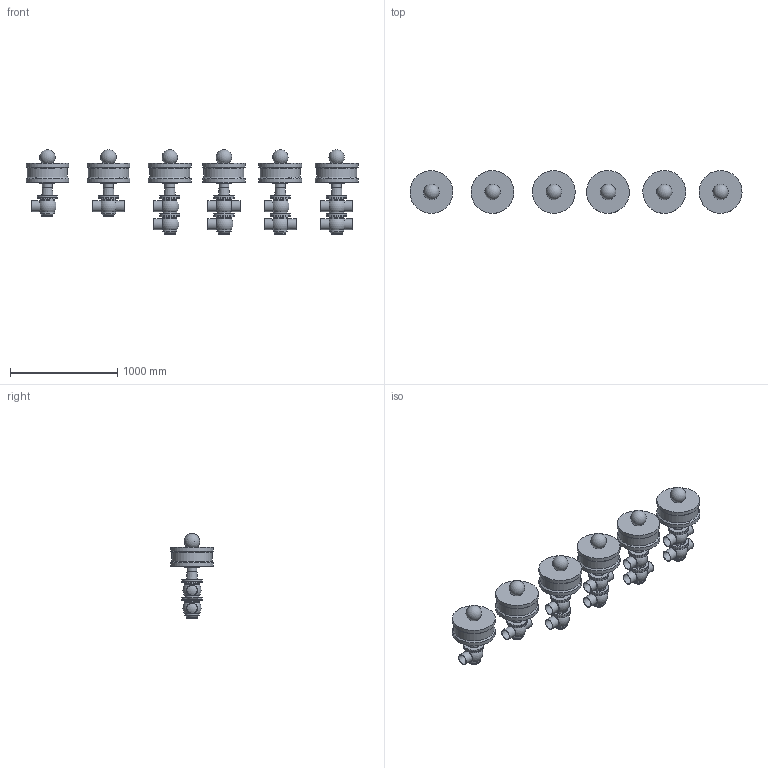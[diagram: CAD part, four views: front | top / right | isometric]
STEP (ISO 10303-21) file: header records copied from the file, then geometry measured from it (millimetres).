
FILE_DESCRIPTION(/* description */ (''),/* implementation_level */ '2;1');
FILE_NAME(/* name */ 'C:\Users\marz-m\Desktop\PDF\BBZQ 3D STEP\BBZQ-DN100-CIL.360.stp',/* time_stamp */ '2018-04-13T15:29:35+02:00',/* author */ ('marz-m'),/* organization */ (''),/* preprocessor_version */ 'ST-DEVELOPER v17',/* originating_system */ 'Autodesk Inventor 2018',/* authorisation */ '');
FILE_SCHEMA (('AUTOMOTIVE_DESIGN { 1 0 10303 214 3 1 1 }'));
Length unit declared in the file: millimetre
Products named in the file (8): BBZQ-DN100-CIL.360; assemblaggio dn100 per cil 207-360; CILINDRO 360; SAGOMA-GIOTTO-; COR-INF-L-BBZQ-DN100X3-SALD; CORPO-SUP-INF-BBZQ-L-DN1016X3-SALD; CORPO-SUP-BBZQ-T-DN1016X3-SALD; COR-INF-T-BBZQ-DN100X3-SALD
Assembly tree (28 placements, depth 2):
  BBZQ-DN100-CIL.360
    assemblaggio dn100 per cil 207-360  x6
    COR-INF-L-BBZQ-DN100X3-SALD  x3
    COR-INF-T-BBZQ-DN100X3-SALD  x3
    CORPO-SUP-INF-BBZQ-L-DN1016X3-SALD  x2
    CORPO-SUP-BBZQ-T-DN1016X3-SALD  x2
    CILINDRO 360  x6
    SAGOMA-GIOTTO-  x6
Bounding box: 3096.57 x 399.85 x 790.97 mm (x, y, z)
Volume: 172797148.7 mm3; surface area: 6427678.2 mm2
Topology: 28 solids, 28 shells, 368 faces, 964 edges, 716 vertices
Faces by surface type: cylinder 142, plane 115, torus 44, cone 36, sphere 31
Full cylindrical faces by diameter (mm): 25.4 x6, 68 x6, 69.8 x6, 70 x6, 77 x6, 92 x6, 95.6 x21, 101.6 x21, 133 x20, 141 x6, 189 x20, 374 x6, 400 x12
Entity records: 4259 total; most frequent: CARTESIAN_POINT 1013, DIRECTION 740, ORIENTED_EDGE 540, AXIS2_PLACEMENT_3D 346, EDGE_CURVE 270, CIRCLE 206, VERTEX_POINT 203, EDGE_LOOP 129
